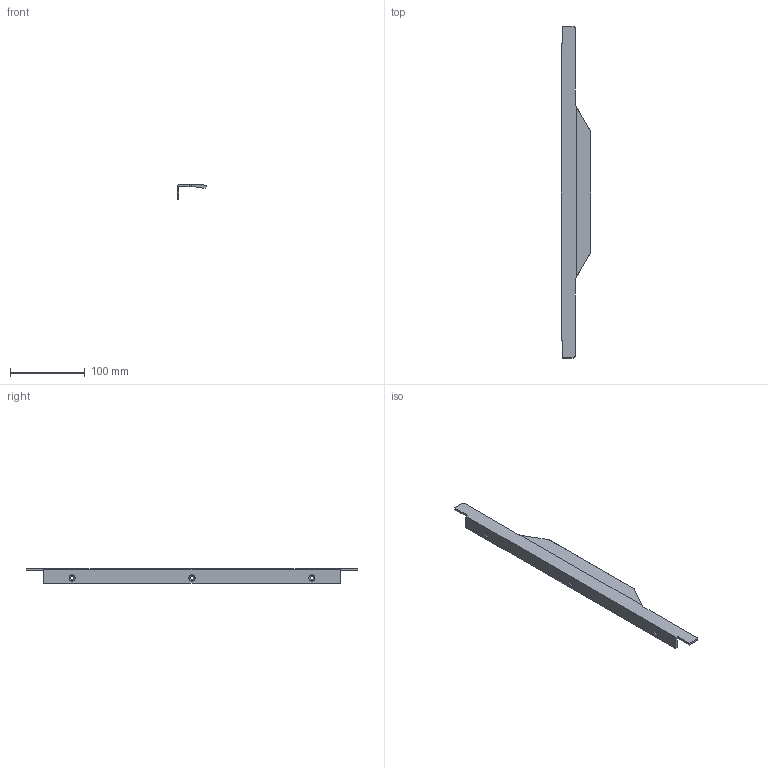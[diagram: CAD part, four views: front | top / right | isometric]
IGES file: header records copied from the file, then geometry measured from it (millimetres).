
Start section: C
Global section: file name: 8360L.igs; native system: By Siemens PLM Incorporated; preprocessor: XPlus GENERIC/IGES 16.0.42; author: Author; organization: Title; date: 20250219.125122; units: millimetre
Bounding box: 40 x 443 x 19 mm (x, y, z)
Surface area: 40304.8 mm2 (no closed solid volume)
Topology: 0 solids, 0 shells, 30 faces, 176 edges, 176 vertices
Faces by surface type: bspline 30
